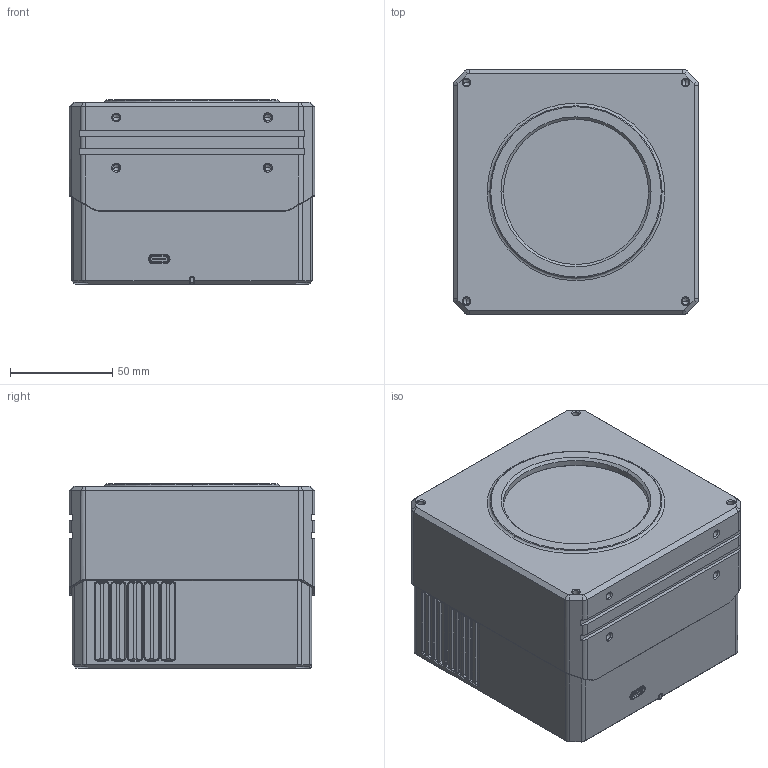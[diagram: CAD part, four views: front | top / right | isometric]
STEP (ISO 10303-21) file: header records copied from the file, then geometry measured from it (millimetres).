
FILE_DESCRIPTION((''),'2;1');
FILE_NAME('MV-CH1510-10FM-PLM_ASM_ASM','2024-10-18T15:02:06',('wangyijun6'),(''),'CREO PARAMETRIC BY PTC INC, 2020044','CREO PARAMETRIC BY PTC INC, 2020044','');
FILE_SCHEMA(('CONFIG_CONTROL_DESIGN'));
Products named in the file (1): MV-CH1510-10FM-PLM_ASM_ASM
Bounding box: 120 x 120 x 90.15 mm (x, y, z)
Volume: 1191708.2 mm3; surface area: 123122.4 mm2
Topology: 7 solids, 32 shells, 3132 faces, 8712 edges, 5551 vertices
Faces by surface type: plane 1565, cylinder 1232, cone 214, sphere 44, bspline 42, torus 26, extrusion 9
Entity records: 104492 total; most frequent: CARTESIAN_POINT 22547, DIRECTION 17579, ORIENTED_EDGE 17174, EDGE_CURVE 8628, AXIS2_PLACEMENT_3D 6175, VERTEX_POINT 5551, VECTOR 5229, LINE 5220
